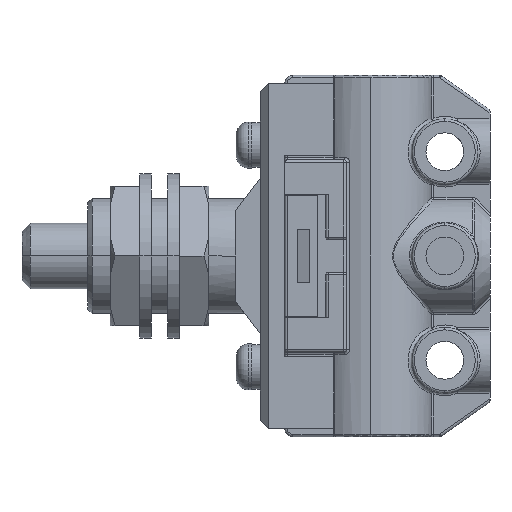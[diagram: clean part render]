
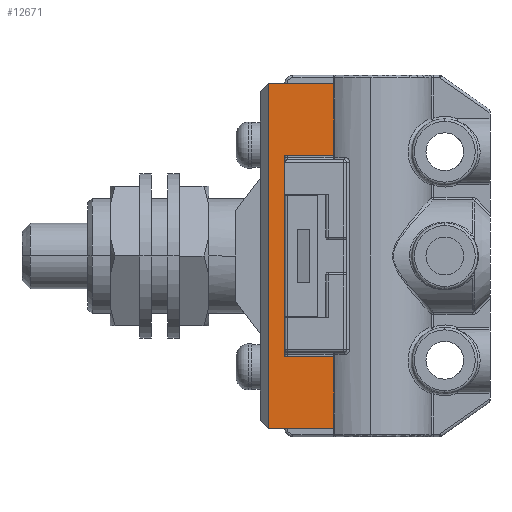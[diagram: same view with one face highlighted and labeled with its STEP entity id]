
A CAD part, left-side view. The second image highlights one B-rep face of the part: STEP entity #12671.
In plain terms, the highlighted planar face has unit normal (-1, 0, 0).
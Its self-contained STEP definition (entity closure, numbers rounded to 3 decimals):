
#635 = VECTOR ( 'NONE', #3733, 1000. ) ;
#1369 = DIRECTION ( 'NONE',  ( 0., 0., -1. ) ) ;
#1487 = AXIS2_PLACEMENT_3D ( 'NONE', #12476, #11155, #16219 ) ;
#1504 = VECTOR ( 'NONE', #15691, 1000. ) ;
#1649 = ORIENTED_EDGE ( 'NONE', *, *, #7220, .T. ) ;
#1740 = VERTEX_POINT ( 'NONE', #15225 ) ;
#2219 = VERTEX_POINT ( 'NONE', #8119 ) ;
#2598 = LINE ( 'NONE', #10184, #1504 ) ;
#2600 = DIRECTION ( 'NONE',  ( 0., 0., 1. ) ) ;
#3464 = LINE ( 'NONE', #8686, #8844 ) ;
#3492 = ORIENTED_EDGE ( 'NONE', *, *, #15167, .F. ) ;
#3733 = DIRECTION ( 'NONE',  ( 0., -1., 0. ) ) ;
#3888 = ORIENTED_EDGE ( 'NONE', *, *, #12561, .T. ) ;
#4537 = ORIENTED_EDGE ( 'NONE', *, *, #7340, .T. ) ;
#4919 = LINE ( 'NONE', #9074, #10503 ) ;
#4961 = ORIENTED_EDGE ( 'NONE', *, *, #9422, .F. ) ;
#5117 = CARTESIAN_POINT ( 'NONE',  ( -8., -6., 21. ) ) ;
#5570 = VECTOR ( 'NONE', #10772, 1000. ) ;
#5597 = ORIENTED_EDGE ( 'NONE', *, *, #10322, .T. ) ;
#5903 = CARTESIAN_POINT ( 'NONE',  ( -8., 0., 12.25 ) ) ;
#6106 = PLANE ( 'NONE',  #1487 ) ;
#6228 = LINE ( 'NONE', #7418, #7771 ) ;
#6325 = LINE ( 'NONE', #7791, #13240 ) ;
#6657 = CARTESIAN_POINT ( 'NONE',  ( -8., -6., 12.25 ) ) ;
#6909 = CARTESIAN_POINT ( 'NONE',  ( -8., -6., -12.25 ) ) ;
#7220 = EDGE_CURVE ( 'NONE', #13999, #8595, #3464, .T. ) ;
#7340 = EDGE_CURVE ( 'NONE', #8696, #9001, #4919, .T. ) ;
#7418 = CARTESIAN_POINT ( 'NONE',  ( -8., -6., -12.25 ) ) ;
#7595 = DIRECTION ( 'NONE',  ( 0., 1., 0. ) ) ;
#7771 = VECTOR ( 'NONE', #7595, 1000. ) ;
#7791 = CARTESIAN_POINT ( 'NONE',  ( -8., -6., 21. ) ) ;
#7908 = DIRECTION ( 'NONE',  ( 0., -1., 0. ) ) ;
#8119 = CARTESIAN_POINT ( 'NONE',  ( -8., -6., 12.25 ) ) ;
#8595 = VERTEX_POINT ( 'NONE', #15908 ) ;
#8601 = VERTEX_POINT ( 'NONE', #6909 ) ;
#8686 = CARTESIAN_POINT ( 'NONE',  ( -8., 3., -21. ) ) ;
#8696 = VERTEX_POINT ( 'NONE', #11438 ) ;
#8844 = VECTOR ( 'NONE', #13936, 1000. ) ;
#9001 = VERTEX_POINT ( 'NONE', #5903 ) ;
#9074 = CARTESIAN_POINT ( 'NONE',  ( -8., 0., 12.25 ) ) ;
#9193 = CARTESIAN_POINT ( 'NONE',  ( -8., 3., 21. ) ) ;
#9422 = EDGE_CURVE ( 'NONE', #1740, #10928, #11765, .T. ) ;
#9778 = FACE_OUTER_BOUND ( 'NONE', #13983, .T. ) ;
#10184 = CARTESIAN_POINT ( 'NONE',  ( -8., 2., 21. ) ) ;
#10322 = EDGE_CURVE ( 'NONE', #1740, #13999, #2598, .T. ) ;
#10503 = VECTOR ( 'NONE', #2600, 1000. ) ;
#10677 = LINE ( 'NONE', #10857, #5570 ) ;
#10772 = DIRECTION ( 'NONE',  ( 0., 0., -1. ) ) ;
#10857 = CARTESIAN_POINT ( 'NONE',  ( -8., -6., 21. ) ) ;
#10928 = VERTEX_POINT ( 'NONE', #5117 ) ;
#11155 = DIRECTION ( 'NONE',  ( 1., 0., 0. ) ) ;
#11438 = CARTESIAN_POINT ( 'NONE',  ( -8., 0., -12.25 ) ) ;
#11765 = LINE ( 'NONE', #9193, #15484 ) ;
#11789 = LINE ( 'NONE', #6657, #635 ) ;
#12476 = CARTESIAN_POINT ( 'NONE',  ( -8., 3., 21. ) ) ;
#12561 = EDGE_CURVE ( 'NONE', #8601, #8696, #6228, .T. ) ;
#12671 = ADVANCED_FACE ( 'NONE', ( #9778 ), #6106, .F. ) ;
#13240 = VECTOR ( 'NONE', #1369, 1000. ) ;
#13580 = ORIENTED_EDGE ( 'NONE', *, *, #13701, .T. ) ;
#13701 = EDGE_CURVE ( 'NONE', #9001, #2219, #11789, .T. ) ;
#13936 = DIRECTION ( 'NONE',  ( 0., -1., 0. ) ) ;
#13983 = EDGE_LOOP ( 'NONE', ( #4961, #5597, #1649, #16475, #3888, #4537, #13580, #3492 ) ) ;
#13999 = VERTEX_POINT ( 'NONE', #16595 ) ;
#14966 = EDGE_CURVE ( 'NONE', #8601, #8595, #6325, .T. ) ;
#15167 = EDGE_CURVE ( 'NONE', #10928, #2219, #10677, .T. ) ;
#15225 = CARTESIAN_POINT ( 'NONE',  ( -8., 2., 21. ) ) ;
#15484 = VECTOR ( 'NONE', #7908, 1000. ) ;
#15691 = DIRECTION ( 'NONE',  ( 0., 0., -1. ) ) ;
#15908 = CARTESIAN_POINT ( 'NONE',  ( -8., -6., -21. ) ) ;
#16219 = DIRECTION ( 'NONE',  ( 0., 1., 0. ) ) ;
#16475 = ORIENTED_EDGE ( 'NONE', *, *, #14966, .F. ) ;
#16595 = CARTESIAN_POINT ( 'NONE',  ( -8., 2., -21. ) ) ;
